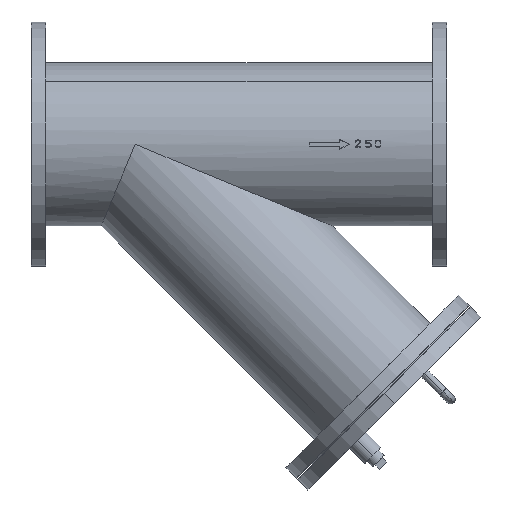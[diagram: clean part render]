
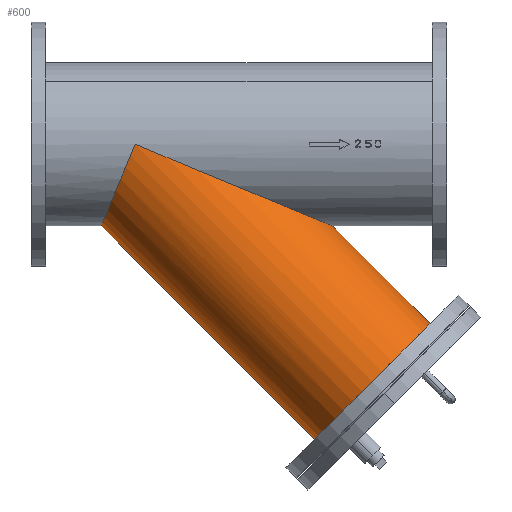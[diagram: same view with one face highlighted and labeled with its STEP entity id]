
A CAD part, front view. The second image highlights one B-rep face of the part: STEP entity #600.
In plain terms, the highlighted cylindrical face has radius 133.7 mm (diameter 267.4 mm), a partial arc.
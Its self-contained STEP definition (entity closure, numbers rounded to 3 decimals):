
#600=ADVANCED_FACE('',(#2287),#2286,.T.);
#2286=CYLINDRICAL_SURFACE('',#4809,133.7);
#2287=FACE_OUTER_BOUND('',#4810,.T.);
#4806=CARTESIAN_POINT('',(85.,0.,85.));
#4807=DIRECTION('',(-0.707,0.,0.707));
#4808=DIRECTION('',(0.707,0.,0.707));
#4809=AXIS2_PLACEMENT_3D('',#4806,#4807,#4808);
#4810=EDGE_LOOP('',(#6328,#6329,#6330,#6331,#6332));
#6328=ORIENTED_EDGE('',*,*,#6838,.F.);
#6329=ORIENTED_EDGE('',*,*,#6909,.T.);
#6330=ORIENTED_EDGE('',*,*,#6851,.T.);
#6331=ORIENTED_EDGE('',*,*,#6850,.F.);
#6332=ORIENTED_EDGE('',*,*,#6910,.F.);
#6838=EDGE_CURVE('',#9240,#9239,#9247,.T.);
#6850=EDGE_CURVE('',#9320,#9327,#9328,.T.);
#6851=EDGE_CURVE('',#9334,#9327,#9335,.T.);
#6909=EDGE_CURVE('',#9240,#9334,#9683,.T.);
#6910=EDGE_CURVE('',#9239,#9320,#9689,.T.);
#9239=VERTEX_POINT('',#12583);
#9240=VERTEX_POINT('',#12584);
#9247=CIRCLE('',#12592,133.7);
#9320=VERTEX_POINT('',#12632);
#9327=VERTEX_POINT('',#12636);
#9328=(BOUNDED_CURVE() B_SPLINE_CURVE(2,(#12637,#12638,#12639),.UNSPECIFIED.,.F.,.F.) B_SPLINE_CURVE_WITH_KNOTS((3,3),(6.283,7.854),.UNSPECIFIED.) CURVE() GEOMETRIC_REPRESENTATION_ITEM() RATIONAL_B_SPLINE_CURVE((1.,0.707,1.)) REPRESENTATION_ITEM('') );
#9334=VERTEX_POINT('',#12640);
#9335=(BOUNDED_CURVE() B_SPLINE_CURVE(2,(#12641,#12642,#12643),.UNSPECIFIED.,.F.,.F.) B_SPLINE_CURVE_WITH_KNOTS((3,3),(3.142,4.712),.UNSPECIFIED.) CURVE() GEOMETRIC_REPRESENTATION_ITEM() RATIONAL_B_SPLINE_CURVE((1.,0.707,1.)) REPRESENTATION_ITEM('') );
#9683=(BOUNDED_CURVE() B_SPLINE_CURVE(1,(#12759,#12760),.UNSPECIFIED.,.F.,.F.) B_SPLINE_CURVE_WITH_KNOTS((2,2),(0.018,0.415),.UNSPECIFIED.) CURVE() GEOMETRIC_REPRESENTATION_ITEM() RATIONAL_B_SPLINE_CURVE((1.,1.)) REPRESENTATION_ITEM('') );
#9689=(BOUNDED_CURVE() B_SPLINE_CURVE(1,(#12761,#12762),.UNSPECIFIED.,.F.,.F.) B_SPLINE_CURVE_WITH_KNOTS((2,2),(0.018,0.885),.UNSPECIFIED.) CURVE() GEOMETRIC_REPRESENTATION_ITEM() RATIONAL_B_SPLINE_CURVE((0.75,0.75)) REPRESENTATION_ITEM('') );
#12583=CARTESIAN_POINT('',(463.62,0.,-482.701));
#12584=CARTESIAN_POINT('',(652.701,0.,-293.62));
#12589=CARTESIAN_POINT('',(558.161,0.,-388.16));
#12590=DIRECTION('',(0.707,0.,-0.707));
#12591=DIRECTION('',(-0.707,0.,-0.707));
#12592=AXIS2_PLACEMENT_3D('',#12589,#12590,#12591);
#12632=CARTESIAN_POINT('',(114.62,0.,-133.7));
#12636=CARTESIAN_POINT('',(170.,-133.7,0.));
#12637=CARTESIAN_POINT('',(114.62,0.,-133.7));
#12638=CARTESIAN_POINT('',(114.62,-133.7,-133.7));
#12639=CARTESIAN_POINT('',(170.,-133.7,0.));
#12640=CARTESIAN_POINT('',(492.78,0.,-133.7));
#12641=CARTESIAN_POINT('',(492.78,0.,-133.7));
#12642=CARTESIAN_POINT('',(492.78,-133.7,-133.7));
#12643=CARTESIAN_POINT('',(170.,-133.7,0.));
#12759=CARTESIAN_POINT('',(652.701,0.,-293.62));
#12760=CARTESIAN_POINT('',(492.78,0.,-133.7));
#12761=CARTESIAN_POINT('',(463.62,0.,-482.701));
#12762=CARTESIAN_POINT('',(114.62,0.,-133.7));
